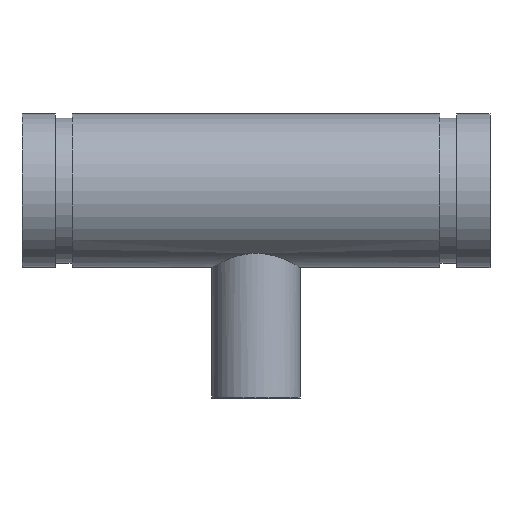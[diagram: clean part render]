
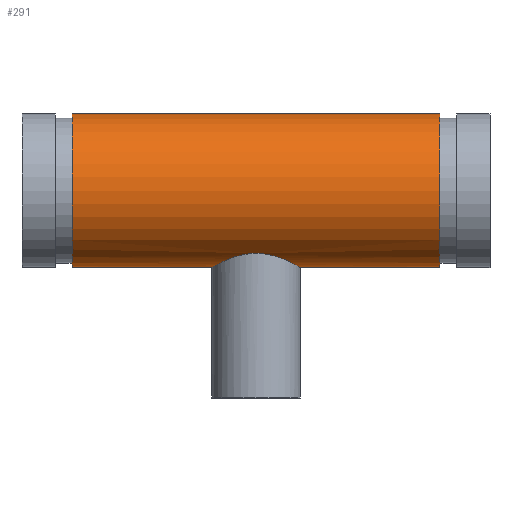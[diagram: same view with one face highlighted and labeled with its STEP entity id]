
A CAD part, top view. The second image highlights one B-rep face of the part: STEP entity #291.
In plain terms, the highlighted cylindrical face has radius 36.513 mm (diameter 73.025 mm), a full revolution.
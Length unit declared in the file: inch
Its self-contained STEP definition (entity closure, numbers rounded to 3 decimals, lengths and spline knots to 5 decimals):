
#45=B_SPLINE_CURVE_WITH_KNOTS('',3,(#511,#512,#513,#514,#515,#516,#517,
#518,#519,#520,#521,#522,#523,#524,#525,#526,#527,#528,#529,#530,#531,#532,
#533,#534,#535,#536,#537,#538,#539,#540,#541,#542,#543,#544,#545,#546,#547,
#548,#549,#550,#551,#552,#553,#554,#555,#556,#557,#558,#559,#560),
 .UNSPECIFIED.,.F.,.F.,(4,2,2,2,2,2,2,2,2,2,2,2,2,2,2,2,2,2,2,2,2,2,2,2,
4),(0.,0.40959,0.81918,1.22876,1.63835,
2.04575,2.45314,2.86054,3.26793,3.67533,
4.08273,4.49012,4.89752,5.30711,5.71669,
6.12628,6.53587,6.94546,7.35504,7.76463,
8.17422,8.58162,8.98901,9.39641,9.8038),
 .UNSPECIFIED.);
#46=B_SPLINE_CURVE_WITH_KNOTS('',3,(#561,#562,#563,#564,#565,#566,#567,
#568,#569,#570,#571,#572,#573,#574,#575,#576,#577,#578),.UNSPECIFIED.,.F.,
 .F.,(4,2,2,2,2,2,2,2,4),(9.8038,10.2112,10.61859,
11.02599,11.43339,11.84297,12.25256,12.66215,
13.07174),.UNSPECIFIED.);
#51=LINE('',#508,#59);
#59=VECTOR('',#410,1.4375);
#67=CYLINDRICAL_SURFACE('',#338,1.4375);
#77=FACE_BOUND('',#108,.T.);
#88=FACE_OUTER_BOUND('',#107,.T.);
#107=EDGE_LOOP('',(#221,#222,#223,#224));
#108=EDGE_LOOP('',(#225,#226));
#121=CIRCLE('',#321,1.4375);
#132=CIRCLE('',#337,1.4375);
#141=VERTEX_POINT('',#476);
#152=VERTEX_POINT('',#505);
#153=VERTEX_POINT('',#509);
#154=VERTEX_POINT('',#510);
#165=EDGE_CURVE('',#141,#141,#121,.T.);
#178=EDGE_CURVE('',#152,#152,#132,.T.);
#179=EDGE_CURVE('',#152,#141,#51,.T.);
#180=EDGE_CURVE('',#153,#154,#45,.T.);
#181=EDGE_CURVE('',#154,#153,#46,.T.);
#221=ORIENTED_EDGE('',*,*,#178,.T.);
#222=ORIENTED_EDGE('',*,*,#179,.T.);
#223=ORIENTED_EDGE('',*,*,#165,.T.);
#224=ORIENTED_EDGE('',*,*,#179,.F.);
#225=ORIENTED_EDGE('',*,*,#180,.F.);
#226=ORIENTED_EDGE('',*,*,#181,.F.);
#291=ADVANCED_FACE('',(#88,#77),#67,.T.);
#321=AXIS2_PLACEMENT_3D('',#477,#372,#373);
#337=AXIS2_PLACEMENT_3D('',#506,#406,#407);
#338=AXIS2_PLACEMENT_3D('',#507,#408,#409);
#372=DIRECTION('center_axis',(-1.,0.,0.));
#373=DIRECTION('ref_axis',(0.,-1.,0.));
#406=DIRECTION('center_axis',(1.,0.,0.));
#407=DIRECTION('ref_axis',(0.,-1.,0.));
#408=DIRECTION('center_axis',(-1.,0.,0.));
#409=DIRECTION('ref_axis',(0.,-1.,0.));
#410=DIRECTION('',(1.,0.,0.));
#476=CARTESIAN_POINT('',(3.442,1.4375,0.));
#477=CARTESIAN_POINT('Origin',(3.442,0.,0.));
#505=CARTESIAN_POINT('',(-3.442,1.4375,0.));
#506=CARTESIAN_POINT('Origin',(-3.442,0.,0.));
#507=CARTESIAN_POINT('Origin',(4.38,0.,0.));
#508=CARTESIAN_POINT('',(4.38,1.4375,0.));
#509=CARTESIAN_POINT('',(0.,-1.17367,-0.83));
#510=CARTESIAN_POINT('',(-0.83,-1.4375,0.));
#511=CARTESIAN_POINT('Ctrl Pts',(0.,-1.17367,-0.83));
#512=CARTESIAN_POINT('Ctrl Pts',(0.05375,-1.17367,-0.83));
#513=CARTESIAN_POINT('Ctrl Pts',(0.10873,-1.17748,-0.8247));
#514=CARTESIAN_POINT('Ctrl Pts',(0.21706,-1.19237,-0.80302));
#515=CARTESIAN_POINT('Ctrl Pts',(0.27042,-1.20342,-0.78665));
#516=CARTESIAN_POINT('Ctrl Pts',(0.37206,-1.23026,-0.74398));
#517=CARTESIAN_POINT('Ctrl Pts',(0.42046,-1.24602,-0.71765));
#518=CARTESIAN_POINT('Ctrl Pts',(0.50975,-1.27892,-0.65723));
#519=CARTESIAN_POINT('Ctrl Pts',(0.55066,-1.29603,-0.62314));
#520=CARTESIAN_POINT('Ctrl Pts',(0.62294,-1.32835,-0.55085));
#521=CARTESIAN_POINT('Ctrl Pts',(0.65701,-1.3448,-0.51005));
#522=CARTESIAN_POINT('Ctrl Pts',(0.7175,-1.37537,-0.42072));
#523=CARTESIAN_POINT('Ctrl Pts',(0.74393,-1.38946,-0.3722));
#524=CARTESIAN_POINT('Ctrl Pts',(0.78671,-1.41283,-0.27027));
#525=CARTESIAN_POINT('Ctrl Pts',(0.8031,-1.42211,-0.21676));
#526=CARTESIAN_POINT('Ctrl Pts',(0.82475,-1.43445,-0.10836));
#527=CARTESIAN_POINT('Ctrl Pts',(0.83,-1.4375,-0.05346));
#528=CARTESIAN_POINT('Ctrl Pts',(0.83,-1.4375,0.05346));
#529=CARTESIAN_POINT('Ctrl Pts',(0.82475,-1.43445,0.10836));
#530=CARTESIAN_POINT('Ctrl Pts',(0.8031,-1.42211,0.21676));
#531=CARTESIAN_POINT('Ctrl Pts',(0.78671,-1.41283,0.27027));
#532=CARTESIAN_POINT('Ctrl Pts',(0.74393,-1.38946,0.3722));
#533=CARTESIAN_POINT('Ctrl Pts',(0.7175,-1.37537,0.42072));
#534=CARTESIAN_POINT('Ctrl Pts',(0.65701,-1.3448,0.51005));
#535=CARTESIAN_POINT('Ctrl Pts',(0.62294,-1.32835,0.55085));
#536=CARTESIAN_POINT('Ctrl Pts',(0.55066,-1.29603,0.62314));
#537=CARTESIAN_POINT('Ctrl Pts',(0.50975,-1.27892,0.65723));
#538=CARTESIAN_POINT('Ctrl Pts',(0.42046,-1.24602,0.71765));
#539=CARTESIAN_POINT('Ctrl Pts',(0.37206,-1.23026,0.74398));
#540=CARTESIAN_POINT('Ctrl Pts',(0.27042,-1.20342,0.78665));
#541=CARTESIAN_POINT('Ctrl Pts',(0.21706,-1.19237,0.80302));
#542=CARTESIAN_POINT('Ctrl Pts',(0.10873,-1.17748,0.8247));
#543=CARTESIAN_POINT('Ctrl Pts',(0.05375,-1.17367,0.83));
#544=CARTESIAN_POINT('Ctrl Pts',(-0.05375,-1.17367,0.83));
#545=CARTESIAN_POINT('Ctrl Pts',(-0.10873,-1.17748,0.8247));
#546=CARTESIAN_POINT('Ctrl Pts',(-0.21706,-1.19237,0.80302));
#547=CARTESIAN_POINT('Ctrl Pts',(-0.27042,-1.20342,0.78665));
#548=CARTESIAN_POINT('Ctrl Pts',(-0.37206,-1.23026,0.74398));
#549=CARTESIAN_POINT('Ctrl Pts',(-0.42046,-1.24602,0.71765));
#550=CARTESIAN_POINT('Ctrl Pts',(-0.50975,-1.27892,0.65723));
#551=CARTESIAN_POINT('Ctrl Pts',(-0.55066,-1.29603,0.62314));
#552=CARTESIAN_POINT('Ctrl Pts',(-0.62294,-1.32835,0.55085));
#553=CARTESIAN_POINT('Ctrl Pts',(-0.65701,-1.3448,0.51005));
#554=CARTESIAN_POINT('Ctrl Pts',(-0.7175,-1.37537,0.42072));
#555=CARTESIAN_POINT('Ctrl Pts',(-0.74393,-1.38946,0.3722));
#556=CARTESIAN_POINT('Ctrl Pts',(-0.78671,-1.41283,0.27027));
#557=CARTESIAN_POINT('Ctrl Pts',(-0.8031,-1.42211,0.21676));
#558=CARTESIAN_POINT('Ctrl Pts',(-0.82475,-1.43445,0.10836));
#559=CARTESIAN_POINT('Ctrl Pts',(-0.83,-1.4375,0.05346));
#560=CARTESIAN_POINT('Ctrl Pts',(-0.83,-1.4375,0.));
#561=CARTESIAN_POINT('Ctrl Pts',(-0.83,-1.4375,0.));
#562=CARTESIAN_POINT('Ctrl Pts',(-0.83,-1.4375,-0.05346));
#563=CARTESIAN_POINT('Ctrl Pts',(-0.82475,-1.43445,-0.10836));
#564=CARTESIAN_POINT('Ctrl Pts',(-0.8031,-1.42211,-0.21676));
#565=CARTESIAN_POINT('Ctrl Pts',(-0.78671,-1.41283,-0.27027));
#566=CARTESIAN_POINT('Ctrl Pts',(-0.74393,-1.38946,-0.3722));
#567=CARTESIAN_POINT('Ctrl Pts',(-0.7175,-1.37537,-0.42072));
#568=CARTESIAN_POINT('Ctrl Pts',(-0.65701,-1.3448,-0.51005));
#569=CARTESIAN_POINT('Ctrl Pts',(-0.62294,-1.32835,-0.55085));
#570=CARTESIAN_POINT('Ctrl Pts',(-0.55066,-1.29603,-0.62314));
#571=CARTESIAN_POINT('Ctrl Pts',(-0.50975,-1.27892,-0.65723));
#572=CARTESIAN_POINT('Ctrl Pts',(-0.42046,-1.24602,-0.71765));
#573=CARTESIAN_POINT('Ctrl Pts',(-0.37206,-1.23026,-0.74398));
#574=CARTESIAN_POINT('Ctrl Pts',(-0.27042,-1.20342,-0.78665));
#575=CARTESIAN_POINT('Ctrl Pts',(-0.21706,-1.19237,-0.80302));
#576=CARTESIAN_POINT('Ctrl Pts',(-0.10873,-1.17748,-0.8247));
#577=CARTESIAN_POINT('Ctrl Pts',(-0.05375,-1.17367,
-0.83));
#578=CARTESIAN_POINT('Ctrl Pts',(0.,-1.17367,
-0.83));
